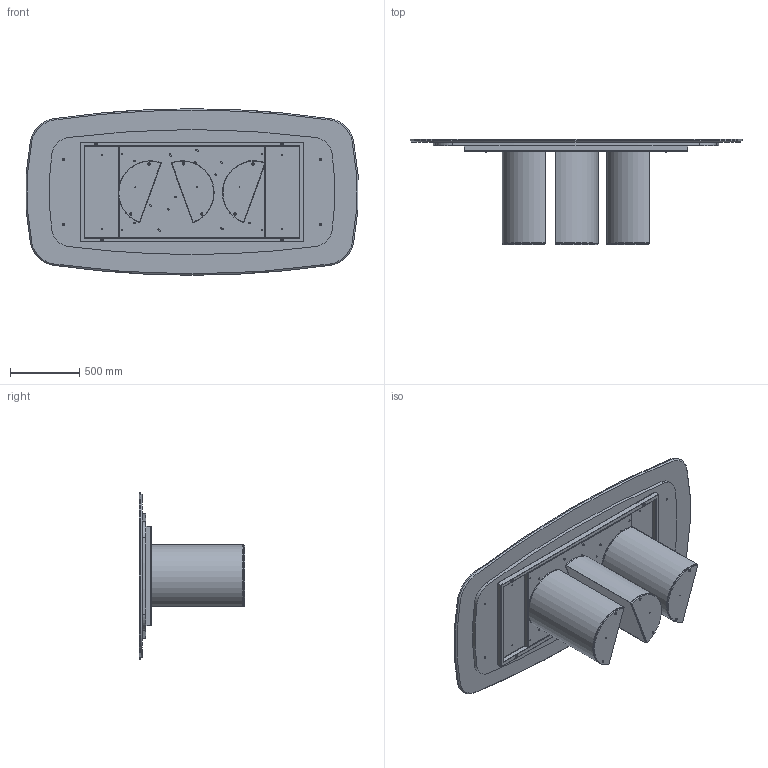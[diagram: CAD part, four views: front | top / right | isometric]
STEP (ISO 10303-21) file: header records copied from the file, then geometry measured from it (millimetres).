
FILE_DESCRIPTION (( 'STEP AP203' ), '1' );
FILE_NAME ('PL43M.STEP', '2024-08-07T13:55:34', ( '' ), ( '' ), 'SwSTEP 2.0', 'SolidWorks 2022', '' );
FILE_SCHEMA (( 'CONFIG_CONTROL_DESIGN' ));
Length unit declared in the file: millimetre
Products named in the file (16): Assieme Basamento PLAI_Basamento per tavoli; M8xXXmm_M8x55mm; TTAV0601_02-00-VASSOIO TAVOLI PLAI ONDA NOA 240; M4XMXX-00-Piani Sagomati in marmo_2400x1200; PL43M; TTAV0601_01-00-STRUTTURA X TAVOLI PLAI ONDA NOA 240; M8xXXmm_M8x20mm; TTAV0601-00-TELAIO X TAVOLI PLAI ONDA NOA 240cm_TTAV06; M4X-00-Piani Sagomati in marmo_2400 x 1200; PLA000000ZOC-01-PLAI ZOCCOLO DELLA BASE; PLA000000BAS-00-PLAI BASE GREZZA; M8xXXmm_hex_M8X60mm; TRUXXXXXX-00-NOBILITATO GR CON SUPP TRUCIOLARE SP. 25_TRU00007_2100x900; rondella M8_8X24; COLLO TELAIO UNIVERSALE TTAV0601 CON FERRAMENTA_FERRAMENTA MTG TOP LEGNO-MARMO-KING; M8xXXmm_hex_M8X20mm
Assembly tree (34 placements, depth 4):
  PL43M
    COLLO TELAIO UNIVERSALE TTAV0601 CON FERRAMENTA_FERRAMENTA MTG TOP LEGNO-MARMO-KING
      TTAV0601-00-TELAIO X TAVOLI PLAI ONDA NOA 240cm_TTAV06
        TTAV0601_02-00-VASSOIO TAVOLI PLAI ONDA NOA 240
        TTAV0601_01-00-STRUTTURA X TAVOLI PLAI ONDA NOA 240
      rondella M8_8X24  x4
      M8xXXmm_M8x55mm  x4
    Assieme Basamento PLAI_Basamento per tavoli  x3
      PLA000000BAS-00-PLAI BASE GREZZA
      PLA000000ZOC-01-PLAI ZOCCOLO DELLA BASE
      M8xXXmm_hex_M8X60mm
      M8xXXmm_hex_M8X20mm
    rondella M8_8X24  x6
    M8xXXmm_M8x20mm  x6
    M4XMXX-00-Piani Sagomati in marmo_2400x1200
      M4X-00-Piani Sagomati in marmo_2400 x 1200
      TRUXXXXXX-00-NOBILITATO GR CON SUPP TRUCIOLARE SP. 25_TRU00007_2100x900
Bounding box: 2391.9 x 759 x 1200 mm (x, y, z)
Volume: 108559002.3 mm3; surface area: 17628489.5 mm2
Topology: 45 solids, 45 shells, 1345 faces, 3057 edges, 1761 vertices
Faces by surface type: plane 509, cylinder 397, cone 299, torus 132, sphere 8
Entity records: 22677 total; most frequent: DIRECTION 3795, CARTESIAN_POINT 3554, ORIENTED_EDGE 3302, EDGE_CURVE 1651, AXIS2_PLACEMENT_3D 1438, VERTEX_POINT 993, LINE 919, VECTOR 919
